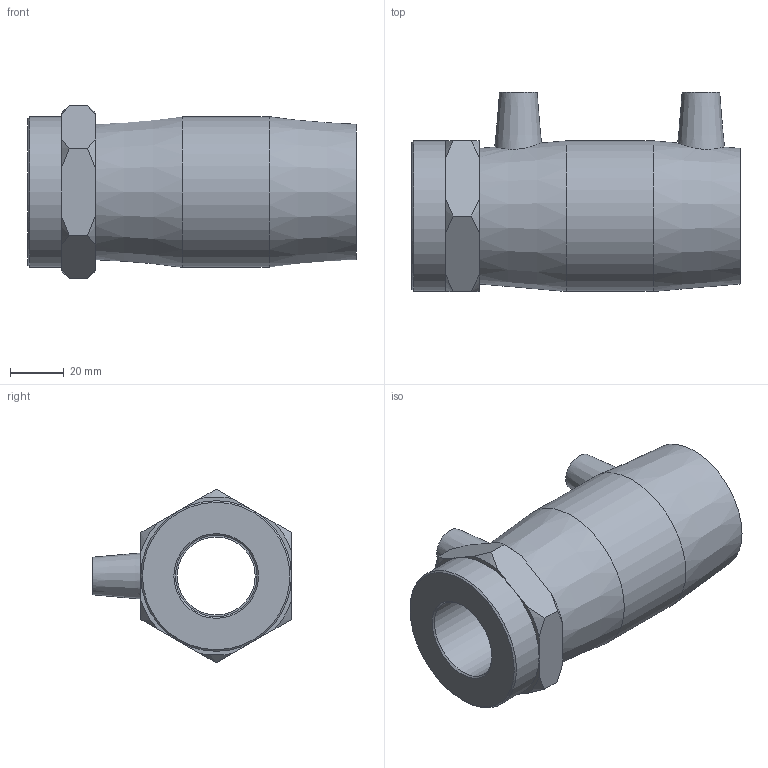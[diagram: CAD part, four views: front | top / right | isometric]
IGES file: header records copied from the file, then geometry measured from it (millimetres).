
Global section: file name: 493104040010.ipt; native system: Autodesk Inventor 2015; preprocessor: unknown; author: KIM; date: 20200202.122442; units: millimetre
Bounding box: 122 x 74 x 64.66 mm (x, y, z)
Volume: 183349.7 mm3; surface area: 41010.9 mm2
Topology: 1 solids, 1 shells, 54 faces, 130 edges, 86 vertices
Faces by surface type: plane 24, cone 17, revolution 9, cylinder 4
Full cylindrical faces by diameter (mm): 4 x2, 56 x2
